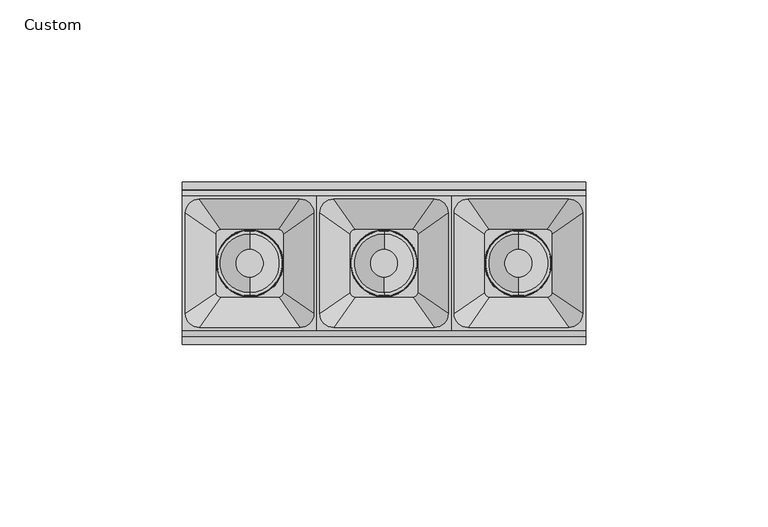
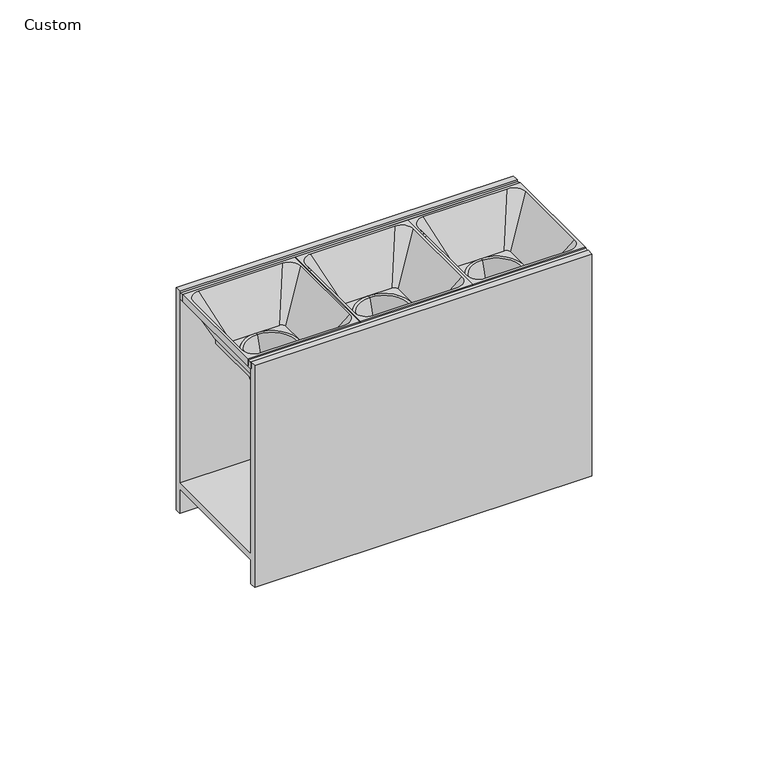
"""IFC4 building model written with IfcOpenShell, lengths in millimetres: light fixture geometry, Lighting-Pendant-Axis-Sculpt-Linear-MikroLite : Custom."""

from ifc_helpers import new_model, si_unit, point, frame, origin, place, context, project, spatial, polyline, circle_curve, ellipse_curve, trimmed, outline, extrude, source, transform, mapped, element, save
from ifc_brep_helpers import plane_surface, revolved_surface, spline_surface, advanced_brep


def custom_f251745e(model_context):
    return source(origin(), model_context, "Body", "SolidModel", [
        advanced_brep(
        [(-11.5702329, 11.5702329, 672.4768563), (-11.5702329, 11.5702329, 671.3885205), (-11.5702329, -11.5702329, 671.3885205), (-11.5702329, -11.5702329, 672.4768563), (-17.2355213, -17.2355213, 684.05375), (-17.2355213, 17.2355213, 684.05375), (-18.415, 18.415, 686.59375), (-18.415, 18.415, 684.05375), (-18.415, -18.415, 684.05375), (-18.415, -18.415, 686.59375), (11.5702329, -11.5702329, 671.3885205), (11.5702329, -11.5702329, 672.4768563), (17.2355213, -17.2355213, 684.05375), (18.415, -18.415, 684.05375), (18.415, -18.415, 686.59375), (11.5702329, 11.5702329, 671.3885205), (11.5702329, 11.5702329, 672.4768563), (17.2355213, 17.2355213, 684.05375), (18.415, 18.415, 684.05375), (18.415, 18.415, 686.59375), (-17.5895, -13.7795, 686.59375), (-17.5895, 13.7795, 686.59375), (-13.7795, 17.5895, 686.59375), (13.7795, 17.5895, 686.59375), (17.5895, 13.7795, 686.59375), (17.5895, -13.7795, 686.59375), (13.7795, -17.5895, 686.59375), (-13.7795, -17.5895, 686.59375), (0.0, 9.1446644, 671.3885205), (0.0, -9.1446644, 671.3885205), (-9.2138442, -7.9438442, 672.17925), (-7.9438442, -9.2138442, 672.17925), (0.0, -9.2138442, 672.17925), (-9.2138442, 0.0, 672.17925), (7.9438442, -9.2138442, 672.17925), (9.2138442, -7.9438442, 672.17925), (9.2138442, 0.0, 672.17925), (9.2138442, 7.9438442, 672.17925), (7.9438442, 9.2138442, 672.17925), (0.0, 9.2138442, 672.17925), (-7.9438442, 9.2138442, 672.17925), (-9.2138442, 7.9438442, 672.17925)],
        [
            (0, 1),
            (1, 2),
            (2, 3),
            (3, 0),
            (3, 4),
            (4, 5),
            (5, 0),
            (6, 7),
            (7, 8),
            (8, 9),
            (9, 6),
            (2, 10),
            (10, 11),
            (11, 3),
            (11, 12),
            (12, 4),
            (8, 13),
            (13, 14),
            (14, 9),
            (10, 15),
            (15, 16),
            (16, 11),
            (16, 17),
            (17, 12),
            (13, 18),
            (18, 19),
            (19, 14),
            (0, 16),
            (15, 1),
            (5, 17),
            (7, 18),
            (6, 19),
            (20, 21),
            (21, 22, circle_curve(frame((-13.7795, 13.7795, 686.59375), z_axis=(0.0, 0.0, -1.0), x_axis=(1.0, 0.0, 0.0)), 3.81)),
            (22, 23),
            (23, 24, circle_curve(frame((13.7795, 13.7795, 686.59375), z_axis=(0.0, 0.0, -1.0), x_axis=(1.0, 0.0, 0.0)), 3.81)),
            (24, 25),
            (25, 26, circle_curve(frame((13.7795, -13.7795, 686.59375), z_axis=(0.0, 0.0, -1.0), x_axis=(1.0, 0.0, 0.0)), 3.81)),
            (26, 27),
            (27, 20, circle_curve(frame((-13.7795, -13.7795, 686.59375), z_axis=(0.0, 0.0, -1.0), x_axis=(1.0, 0.0, 0.0)), 3.81)),
            (28, 29, circle_curve(frame((0.0, 0.0, 671.3885205), z_axis=(0.0, 0.0, 1.0), x_axis=(0.0, 1.0, 0.0)), 9.1446644)),
            (29, 28, circle_curve(frame((0.0, 0.0, 671.3885205), z_axis=(0.0, 0.0, 1.0), x_axis=(0.0, 1.0, 0.0)), 9.1446644)),
            (30, 31, circle_curve(frame((-7.9438442, -7.9438442, 672.17925), z_axis=(0.0, 0.0, 1.0), x_axis=(1.0, 0.0, 0.0)), 1.27)),
            (31, 32),
            (32, 33, circle_curve(frame((0.0, 0.0, 672.17925), z_axis=(0.0, 0.0, -1.0), x_axis=(0.0, 1.0, 0.0)), 9.2138442)),
            (33, 30),
            (34, 35, circle_curve(frame((7.9438442, -7.9438442, 672.17925), z_axis=(0.0, 0.0, 1.0), x_axis=(1.0, 0.0, 0.0)), 1.27)),
            (35, 36),
            (36, 32, circle_curve(frame((0.0, 0.0, 672.17925), z_axis=(0.0, 0.0, -1.0), x_axis=(0.0, 1.0, 0.0)), 9.2138442)),
            (32, 34),
            (37, 38, circle_curve(frame((7.9438442, 7.9438442, 672.17925), z_axis=(0.0, 0.0, 1.0), x_axis=(1.0, 0.0, 0.0)), 1.27)),
            (38, 39),
            (39, 36, circle_curve(frame((0.0, 0.0, 672.17925), z_axis=(0.0, 0.0, -1.0), x_axis=(0.0, 1.0, 0.0)), 9.2138442)),
            (36, 37),
            (40, 41, circle_curve(frame((-7.9438442, 7.9438442, 672.17925), z_axis=(0.0, 0.0, 1.0), x_axis=(1.0, 0.0, 0.0)), 1.27)),
            (41, 33),
            (33, 39, circle_curve(frame((0.0, 0.0, 672.17925), z_axis=(0.0, 0.0, -1.0), x_axis=(0.0, 1.0, 0.0)), 9.2138442)),
            (39, 40),
            (20, 30),
            (41, 21),
            (27, 31),
            (26, 34),
            (25, 35),
            (24, 37),
            (23, 38),
            (22, 40),
            (32, 29),
            (28, 39),
        ],
        [
            plane_surface(frame((-11.5702329, 11.5702329, 671.3885205), z_axis=(-1.0, 0.0, 0.0), x_axis=(0.0, -1.0, 0.0))),
            plane_surface(frame((-11.5702329, 11.5702329, 672.4768563), z_axis=(-0.8982167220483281, 0.0, -0.43955286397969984), x_axis=(0.0, -1.0, 0.0))),
            plane_surface(frame((-18.415, 18.415, 684.05375), z_axis=(-1.0, 0.0, 0.0), x_axis=(0.0, -1.0, 0.0))),
            plane_surface(frame((-11.5702329, -11.5702329, 671.3885205), z_axis=(0.0, -1.0, 0.0), x_axis=(1.0, 0.0, 0.0))),
            plane_surface(frame((-11.5702329, -11.5702329, 672.4768563), z_axis=(0.0, -0.8982167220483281, -0.43955286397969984), x_axis=(1.0, 0.0, 0.0))),
            plane_surface(frame((-18.415, -18.415, 684.05375), z_axis=(0.0, -1.0, 0.0), x_axis=(1.0, 0.0, 0.0))),
            plane_surface(frame((11.5702329, -11.5702329, 671.3885205), z_axis=(1.0, 0.0, 0.0), x_axis=(0.0, 1.0, 0.0))),
            plane_surface(frame((11.5702329, -11.5702329, 672.4768563), z_axis=(0.8982167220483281, 0.0, -0.43955286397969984), x_axis=(0.0, 1.0, 0.0))),
            plane_surface(frame((18.415, -18.415, 684.05375), z_axis=(1.0, 0.0, 0.0), x_axis=(0.0, 1.0, 0.0))),
            plane_surface(frame((11.5702329, 11.5702329, 671.3885205), z_axis=(0.0, 1.0, 0.0), x_axis=(-1.0, 0.0, 0.0))),
            plane_surface(frame((11.5702329, 11.5702329, 672.4768563), z_axis=(0.0, 0.8982167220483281, -0.43955286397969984), x_axis=(-1.0, 0.0, 0.0))),
            plane_surface(frame((17.2355213, 17.2355213, 684.05375), z_axis=(0.0, 0.0, -1.0), x_axis=(-1.0, 0.0, 0.0))),
            plane_surface(frame((18.415, 18.415, 684.05375), z_axis=(0.0, 1.0, 0.0), x_axis=(-1.0, 0.0, 0.0))),
            plane_surface(frame((18.415, 18.415, 686.59375), z_axis=(0.0, 0.0, 1.0), x_axis=(-1.0, 0.0, 0.0))),
            plane_surface(frame((0.0, 0.0, 671.3885205), z_axis=(0.0, 0.0, -1.0), x_axis=(-1.0, 0.0, 0.0))),
            plane_surface(frame((0.0, 0.0, 672.17925), z_axis=(0.0, 0.0, 1.0), x_axis=(0.0, -1.0, 0.0))),
            plane_surface(frame((-17.5895, 0.0, 686.59375), z_axis=(0.8646340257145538, 0.0, 0.5024022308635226), x_axis=(0.0, 1.0, 0.0))),
            spline_surface(1, 2, [[(-13.7795, -17.5895, 686.59375), (-17.5895, -17.5895, 686.59375), (-17.5895, -13.7795, 686.59375)], [(-7.9438442, -9.2138442, 672.17925), (-9.2138442, -9.2138442, 672.17925), (-9.2138442, -7.9438442, 672.17925)]], [2, 2], [3, 3], [0.0, 1.0], [0.0, 1.0], weights=[[1.0, 0.7071067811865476, 1.0], [1.0, 0.7071067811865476, 1.0]]),
            plane_surface(frame((0.0, -17.5895, 686.59375), z_axis=(0.0, 0.8646340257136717, 0.5024022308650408), x_axis=(-1.0, 0.0, 0.0))),
            spline_surface(1, 2, [[(17.5895, -13.7795, 686.59375), (17.5895, -17.5895, 686.59375), (13.7795, -17.5895, 686.59375)], [(9.2138442, -7.9438442, 672.17925), (9.2138442, -9.2138442, 672.17925), (7.9438442, -9.2138442, 672.17925)]], [2, 2], [3, 3], [0.0, 1.0], [0.0, 1.0], weights=[[1.0, 0.7071067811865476, 1.0], [1.0, 0.7071067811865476, 1.0]]),
            plane_surface(frame((17.5895, 0.0, 686.59375), z_axis=(-0.8646340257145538, 0.0, 0.5024022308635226), x_axis=(0.0, -1.0, 0.0))),
            spline_surface(1, 2, [[(13.7795, 17.5895, 686.59375), (17.5895, 17.5895, 686.59375), (17.5895, 13.7795, 686.59375)], [(7.9438442, 9.2138442, 672.17925), (9.2138442, 9.2138442, 672.17925), (9.2138442, 7.9438442, 672.17925)]], [2, 2], [3, 3], [0.0, 1.0], [0.0, 1.0], weights=[[1.0, 0.7071067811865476, 1.0], [1.0, 0.7071067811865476, 1.0]]),
            plane_surface(frame((0.0, 17.5895, 686.59375), z_axis=(0.0, -0.8646340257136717, 0.5024022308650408), x_axis=(1.0, 0.0, 0.0))),
            spline_surface(1, 2, [[(-17.5895, 13.7795, 686.59375), (-17.5895, 17.5895, 686.59375), (-13.7795, 17.5895, 686.59375)], [(-9.2138442, 7.9438442, 672.17925), (-9.2138442, 9.2138442, 672.17925), (-7.9438442, 9.2138442, 672.17925)]], [2, 2], [3, 3], [0.0, 1.0], [0.0, 1.0], weights=[[1.0, 0.7071067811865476, 1.0], [1.0, 0.7071067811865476, 1.0]]),
            revolved_surface(polyline([(0.0, 9.2138442, 672.17925), (0.0, 9.1446644, 671.3885205)]), (0.0, 0.0, 3030.4005443), (0.0, 0.0, 1.0)),
        ],
        [
            (0, [[1, 2, 3, 4]]),
            (1, [[-4, 5, 6, 7]]),
            (2, [[8, 9, 10, 11]]),
            (3, [[-3, 12, 13, 14]]),
            (4, [[-5, -14, 15, 16]]),
            (5, [[-10, 17, 18, 19]]),
            (6, [[-13, 20, 21, 22]]),
            (7, [[-15, -22, 23, 24]]),
            (8, [[-18, 25, 26, 27]]),
            (9, [[-1, 28, -21, 29]]),
            (10, [[-7, 30, -23, -28]]),
            (11, [[-9, 31, -25, -17], [-6, -16, -24, -30]]),
            (12, [[-8, 32, -26, -31]]),
            (13, [[-11, -19, -27, -32], [33, 34, 35, 36, 37, 38, 39, 40]]),
            (14, [[-2, -29, -20, -12], [41, 42]]),
            (15, [[43, 44, 45, 46]]),
            (15, [[47, 48, 49, 50]]),
            (15, [[51, 52, 53, 54]]),
            (15, [[55, 56, 57, 58]]),
            (16, [[59, -46, -56, 60, -33]]),
            (17, [[-43, -59, -40, 61]]),
            (18, [[-61, -39, 62, -50, -44]]),
            (19, [[-47, -62, -38, 63]]),
            (20, [[-63, -37, 64, -54, -48]]),
            (21, [[-51, -64, -36, 65]]),
            (22, [[-65, -35, 66, -58, -52]]),
            (23, [[-55, -66, -34, -60]]),
            (24, [[67, -41, 68, -57, -45]]),
            (24, [[-67, -49, -53, -68, -42]]),
        ],
    ),
        advanced_brep(
        [(0.0, -3.85, 658.77125), (0.0, 3.85, 658.77125), (0.0, 8.05, 672.47125), (0.0, -8.05, 672.47125), (0.0, -5.35, 658.77125), (0.0, 5.35, 658.77125), (0.0, -5.3865334, 660.012052), (0.0, 5.3865334, 660.012052), (0.0, -8.4259138, 669.87125), (0.0, 8.4259138, 669.87125), (0.0, -9.7360224, 669.87125), (0.0, 9.7360224, 669.87125), (0.0, -9.7986851, 671.3885205), (0.0, 9.7986851, 671.3885205), (0.0, -9.0049351, 671.3885205), (0.0, 9.0049351, 671.3885205), (0.0, -8.9860359, 672.47125), (0.0, 8.9860359, 672.47125)],
        [
            (0, 1, circle_curve(frame((0.0, 0.0, 658.77125), z_axis=(0.0, 0.0, -1.0), x_axis=(0.0, 1.0, 0.0)), 3.85)),
            (1, 2, circle_curve(frame((0.0, 190.6586551, 608.9952391), z_axis=(-1.0, 0.0, 0.0), x_axis=(0.0, -0.9662859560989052, 0.25747126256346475)), 193.3264722)),
            (2, 3, circle_curve(frame((0.0, 0.0, 672.47125), z_axis=(0.0, 0.0, 1.0), x_axis=(0.0, 1.0, 0.0)), 8.05)),
            (3, 0, circle_curve(frame((0.0, -190.6586551, 608.9952391), z_axis=(-1.0, 0.0, 0.0), x_axis=(0.0, 0.9662859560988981, 0.2574712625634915)), 193.3264722)),
            (1, 0, circle_curve(frame((0.0, 0.0, 658.77125), z_axis=(0.0, 0.0, -1.0), x_axis=(0.0, 1.0, 0.0)), 3.85)),
            (3, 2, circle_curve(frame((0.0, 0.0, 672.47125), z_axis=(0.0, 0.0, 1.0), x_axis=(0.0, 1.0, 0.0)), 8.05)),
            (4, 5, circle_curve(frame((0.0, 0.0, 658.77125), z_axis=(0.0, 0.0, -1.0), x_axis=(0.0, 1.0, 0.0)), 5.35)),
            (5, 1),
            (0, 4),
            (5, 4, circle_curve(frame((0.0, 0.0, 658.77125), z_axis=(0.0, 0.0, -1.0), x_axis=(0.0, 1.0, 0.0)), 5.35)),
            (6, 7, circle_curve(frame((0.0, 0.0, 660.012052), z_axis=(0.0, 0.0, -1.0), x_axis=(0.0, 1.0, 0.0)), 5.3865334)),
            (7, 5),
            (4, 6),
            (7, 6, circle_curve(frame((0.0, 0.0, 660.012052), z_axis=(0.0, 0.0, -1.0), x_axis=(0.0, 1.0, 0.0)), 5.3865334)),
            (8, 9, circle_curve(frame((0.0, 0.0, 669.87125), z_axis=(0.0, 0.0, -1.0), x_axis=(0.0, 1.0, 0.0)), 8.4259138)),
            (9, 7, circle_curve(frame((0.0, 178.3166089, 612.0994861), z_axis=(1.0, 0.0, 0.0), x_axis=(0.0, -0.9467575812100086, 0.32194732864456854)), 179.4447686)),
            (6, 8, circle_curve(frame((0.0, -178.3166089, 612.0994861), z_axis=(1.0, 0.0, 0.0), x_axis=(0.0, 0.9467575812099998, 0.32194732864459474)), 179.4447686)),
            (9, 8, circle_curve(frame((0.0, 0.0, 669.87125), z_axis=(0.0, 0.0, -1.0), x_axis=(0.0, 1.0, 0.0)), 8.4259138)),
            (10, 11, circle_curve(frame((0.0, 0.0, 669.87125), z_axis=(0.0, 0.0, -1.0), x_axis=(0.0, 1.0, 0.0)), 9.7360224)),
            (11, 9),
            (8, 10),
            (11, 10, circle_curve(frame((0.0, 0.0, 669.87125), z_axis=(0.0, 0.0, -1.0), x_axis=(0.0, 1.0, 0.0)), 9.7360224)),
            (12, 13, circle_curve(frame((0.0, 0.0, 671.3885205), z_axis=(0.0, 0.0, -1.0), x_axis=(0.0, 1.0, 0.0)), 9.7986851)),
            (13, 11),
            (10, 12),
            (13, 12, circle_curve(frame((0.0, 0.0, 671.3885205), z_axis=(0.0, 0.0, -1.0), x_axis=(0.0, 1.0, 0.0)), 9.7986851)),
            (14, 15, circle_curve(frame((0.0, 0.0, 671.3885205), z_axis=(0.0, 0.0, -1.0), x_axis=(0.0, 1.0, 0.0)), 9.0049351)),
            (15, 13),
            (12, 14),
            (15, 14, circle_curve(frame((0.0, 0.0, 671.3885205), z_axis=(0.0, 0.0, -1.0), x_axis=(0.0, 1.0, 0.0)), 9.0049351)),
            (16, 17, circle_curve(frame((0.0, 0.0, 672.47125), z_axis=(0.0, 0.0, -1.0), x_axis=(0.0, 1.0, 0.0)), 8.9860359)),
            (17, 15),
            (14, 16),
            (17, 16, circle_curve(frame((0.0, 0.0, 672.47125), z_axis=(0.0, 0.0, -1.0), x_axis=(0.0, 1.0, 0.0)), 8.9860359)),
            (2, 17),
            (16, 3),
        ],
        [
            revolved_surface(trimmed(ellipse_curve(frame((0.0, 190.6586551, 608.9952391), z_axis=(1.0, 0.0, 0.0), x_axis=(0.0, -0.9662859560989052, 0.25747126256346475)), 193.3264722, 193.3264722), [point((0.0, 8.05, 672.47125))], [point((0.0, 3.85, 658.77125))], True, "CARTESIAN"), (0.0, 0.0, 3030.4005443), (0.0, 0.0, 1.0)),
            plane_surface(frame((0.0, 0.0, 658.77125), z_axis=(0.0, 0.0, -1.0), x_axis=(0.0, 1.0, 0.0))),
            revolved_surface(polyline([(0.0, 5.35, 658.77125), (0.0, 5.3865334, 660.012052)]), (0.0, 0.0, 3030.4005443), (0.0, 0.0, 1.0)),
            revolved_surface(trimmed(ellipse_curve(frame((0.0, 178.3166089, 612.0994861), z_axis=(-1.0, 0.0, 0.0), x_axis=(0.0, -0.9467575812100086, 0.32194732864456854)), 179.4447686, 179.4447686), [point((0.0, 5.3865334, 660.012052))], [point((0.0, 8.4259138, 669.87125))], True, "CARTESIAN"), (0.0, 0.0, 3030.4005443), (0.0, 0.0, 1.0)),
            plane_surface(frame((0.0, 0.0, 669.87125), z_axis=(0.0, 0.0, -1.0), x_axis=(0.0, 1.0, 0.0))),
            revolved_surface(polyline([(0.0, 9.7360224, 669.87125), (0.0, 9.7986851, 671.3885205)]), (0.0, 0.0, 3030.4005443), (0.0, 0.0, 1.0)),
            plane_surface(frame((0.0, 0.0, 671.3885205), z_axis=(0.0, 0.0, 1.0), x_axis=(0.0, 1.0, 0.0))),
            revolved_surface(polyline([(0.0, 9.0049351, 671.3885205), (0.0, 8.9860359, 672.47125)]), (0.0, 0.0, 3030.4005443), (0.0, 0.0, 1.0)),
            plane_surface(frame((0.0, 0.0, 672.47125), z_axis=(0.0, 0.0, 1.0), x_axis=(0.0, 1.0, 0.0))),
        ],
        [
            (0, [[1, 2, 3, 4]]),
            (0, [[5, -4, 6, -2]]),
            (1, [[7, 8, -1, 9]]),
            (1, [[10, -9, -5, -8]]),
            (2, [[11, 12, -7, 13]]),
            (2, [[14, -13, -10, -12]]),
            (3, [[15, 16, -11, 17]]),
            (3, [[18, -17, -14, -16]]),
            (4, [[19, 20, -15, 21]]),
            (4, [[22, -21, -18, -20]]),
            (5, [[23, 24, -19, 25]]),
            (5, [[26, -25, -22, -24]]),
            (6, [[27, 28, -23, 29]]),
            (6, [[30, -29, -26, -28]]),
            (7, [[31, 32, -27, 33]]),
            (7, [[34, -33, -30, -32]]),
            (8, [[-3, 35, -31, 36]]),
            (8, [[-6, -36, -34, -35]]),
        ],
    ),
        advanced_brep(
        [(25.2597671, 11.5702329, 672.4768563), (25.2597671, 11.5702329, 671.3885205), (25.2597671, -11.5702329, 671.3885205), (25.2597671, -11.5702329, 672.4768563), (19.5944787, -17.2355213, 684.05375), (19.5944787, 17.2355213, 684.05375), (18.415, 18.415, 686.59375), (18.415, 18.415, 684.05375), (18.415, -18.415, 684.05375), (18.415, -18.415, 686.59375), (48.4002329, -11.5702329, 671.3885205), (48.4002329, -11.5702329, 672.4768563), (54.0655213, -17.2355213, 684.05375), (55.245, -18.415, 684.05375), (55.245, -18.415, 686.59375), (48.4002329, 11.5702329, 671.3885205), (48.4002329, 11.5702329, 672.4768563), (54.0655213, 17.2355213, 684.05375), (55.245, 18.415, 684.05375), (55.245, 18.415, 686.59375), (19.2405, -13.7795, 686.59375), (19.2405, 13.7795, 686.59375), (23.0505, 17.5895, 686.59375), (50.6095, 17.5895, 686.59375), (54.4195, 13.7795, 686.59375), (54.4195, -13.7795, 686.59375), (50.6095, -17.5895, 686.59375), (23.0505, -17.5895, 686.59375), (36.83, 9.1446644, 671.3885205), (36.83, -9.1446644, 671.3885205), (27.6161558, -7.9438442, 672.17925), (28.8861558, -9.2138442, 672.17925), (36.83, -9.2138442, 672.17925), (27.6161558, 0.0, 672.17925), (44.7738442, -9.2138442, 672.17925), (46.0438442, -7.9438442, 672.17925), (46.0438442, 0.0, 672.17925), (46.0438442, 7.9438442, 672.17925), (44.7738442, 9.2138442, 672.17925), (36.83, 9.2138442, 672.17925), (28.8861558, 9.2138442, 672.17925), (27.6161558, 7.9438442, 672.17925)],
        [
            (0, 1),
            (1, 2),
            (2, 3),
            (3, 0),
            (3, 4),
            (4, 5),
            (5, 0),
            (6, 7),
            (7, 8),
            (8, 9),
            (9, 6),
            (2, 10),
            (10, 11),
            (11, 3),
            (11, 12),
            (12, 4),
            (8, 13),
            (13, 14),
            (14, 9),
            (10, 15),
            (15, 16),
            (16, 11),
            (16, 17),
            (17, 12),
            (13, 18),
            (18, 19),
            (19, 14),
            (0, 16),
            (15, 1),
            (5, 17),
            (7, 18),
            (6, 19),
            (20, 21),
            (21, 22, circle_curve(frame((23.0505, 13.7795, 686.59375), z_axis=(0.0, 0.0, -1.0), x_axis=(1.0, 0.0, 0.0)), 3.81)),
            (22, 23),
            (23, 24, circle_curve(frame((50.6095, 13.7795, 686.59375), z_axis=(0.0, 0.0, -1.0), x_axis=(1.0, 0.0, 0.0)), 3.81)),
            (24, 25),
            (25, 26, circle_curve(frame((50.6095, -13.7795, 686.59375), z_axis=(0.0, 0.0, -1.0), x_axis=(1.0, 0.0, 0.0)), 3.81)),
            (26, 27),
            (27, 20, circle_curve(frame((23.0505, -13.7795, 686.59375), z_axis=(0.0, 0.0, -1.0), x_axis=(1.0, 0.0, 0.0)), 3.81)),
            (28, 29, circle_curve(frame((36.83, 0.0, 671.3885205), z_axis=(0.0, 0.0, 1.0), x_axis=(0.0, 1.0, 0.0)), 9.1446644)),
            (29, 28, circle_curve(frame((36.83, 0.0, 671.3885205), z_axis=(0.0, 0.0, 1.0), x_axis=(0.0, 1.0, 0.0)), 9.1446644)),
            (30, 31, circle_curve(frame((28.8861558, -7.9438442, 672.17925), z_axis=(0.0, 0.0, 1.0), x_axis=(1.0, 0.0, 0.0)), 1.27)),
            (31, 32),
            (32, 33, circle_curve(frame((36.83, 0.0, 672.17925), z_axis=(0.0, 0.0, -1.0), x_axis=(0.0, 1.0, 0.0)), 9.2138442)),
            (33, 30),
            (34, 35, circle_curve(frame((44.7738442, -7.9438442, 672.17925), z_axis=(0.0, 0.0, 1.0), x_axis=(1.0, 0.0, 0.0)), 1.27)),
            (35, 36),
            (36, 32, circle_curve(frame((36.83, 0.0, 672.17925), z_axis=(0.0, 0.0, -1.0), x_axis=(0.0, 1.0, 0.0)), 9.2138442)),
            (32, 34),
            (37, 38, circle_curve(frame((44.7738442, 7.9438442, 672.17925), z_axis=(0.0, 0.0, 1.0), x_axis=(1.0, 0.0, 0.0)), 1.27)),
            (38, 39),
            (39, 36, circle_curve(frame((36.83, 0.0, 672.17925), z_axis=(0.0, 0.0, -1.0), x_axis=(0.0, 1.0, 0.0)), 9.2138442)),
            (36, 37),
            (40, 41, circle_curve(frame((28.8861558, 7.9438442, 672.17925), z_axis=(0.0, 0.0, 1.0), x_axis=(1.0, 0.0, 0.0)), 1.27)),
            (41, 33),
            (33, 39, circle_curve(frame((36.83, 0.0, 672.17925), z_axis=(0.0, 0.0, -1.0), x_axis=(0.0, 1.0, 0.0)), 9.2138442)),
            (39, 40),
            (20, 30),
            (41, 21),
            (27, 31),
            (26, 34),
            (25, 35),
            (24, 37),
            (23, 38),
            (22, 40),
            (32, 29),
            (28, 39),
        ],
        [
            plane_surface(frame((25.2597671, 11.5702329, 671.3885205), z_axis=(-1.0, 0.0, 0.0), x_axis=(0.0, -1.0, 0.0))),
            plane_surface(frame((25.2597671, 11.5702329, 672.4768563), z_axis=(-0.8982167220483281, 0.0, -0.43955286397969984), x_axis=(0.0, -1.0, 0.0))),
            plane_surface(frame((18.415, 18.415, 684.05375), z_axis=(-1.0, 0.0, 0.0), x_axis=(0.0, -1.0, 0.0))),
            plane_surface(frame((25.2597671, -11.5702329, 671.3885205), z_axis=(0.0, -1.0, 0.0), x_axis=(1.0, 0.0, 0.0))),
            plane_surface(frame((25.2597671, -11.5702329, 672.4768563), z_axis=(0.0, -0.8982167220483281, -0.43955286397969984), x_axis=(1.0, 0.0, 0.0))),
            plane_surface(frame((18.415, -18.415, 684.05375), z_axis=(0.0, -1.0, 0.0), x_axis=(1.0, 0.0, 0.0))),
            plane_surface(frame((48.4002329, -11.5702329, 671.3885205), z_axis=(1.0, 0.0, 0.0), x_axis=(0.0, 1.0, 0.0))),
            plane_surface(frame((48.4002329, -11.5702329, 672.4768563), z_axis=(0.8982167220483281, 0.0, -0.43955286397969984), x_axis=(0.0, 1.0, 0.0))),
            plane_surface(frame((55.245, -18.415, 684.05375), z_axis=(1.0, 0.0, 0.0), x_axis=(0.0, 1.0, 0.0))),
            plane_surface(frame((48.4002329, 11.5702329, 671.3885205), z_axis=(0.0, 1.0, 0.0), x_axis=(-1.0, 0.0, 0.0))),
            plane_surface(frame((48.4002329, 11.5702329, 672.4768563), z_axis=(0.0, 0.8982167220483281, -0.43955286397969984), x_axis=(-1.0, 0.0, 0.0))),
            plane_surface(frame((54.0655213, 17.2355213, 684.05375), z_axis=(0.0, 0.0, -1.0), x_axis=(-1.0, 0.0, 0.0))),
            plane_surface(frame((55.245, 18.415, 684.05375), z_axis=(0.0, 1.0, 0.0), x_axis=(-1.0, 0.0, 0.0))),
            plane_surface(frame((55.245, 18.415, 686.59375), z_axis=(0.0, 0.0, 1.0), x_axis=(-1.0, 0.0, 0.0))),
            plane_surface(frame((36.83, 0.0, 671.3885205), z_axis=(0.0, 0.0, -1.0), x_axis=(-1.0, 0.0, 0.0))),
            plane_surface(frame((36.83, 0.0, 672.17925), z_axis=(0.0, 0.0, 1.0), x_axis=(0.0, -1.0, 0.0))),
            plane_surface(frame((19.2405, 0.0, 686.59375), z_axis=(0.8646340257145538, 0.0, 0.5024022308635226), x_axis=(0.0, 1.0, 0.0))),
            spline_surface(1, 2, [[(23.0505, -17.5895, 686.59375), (19.240499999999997, -17.5895, 686.59375), (19.2405, -13.7795, 686.59375)], [(28.8861558, -9.2138442, 672.17925), (27.6161558, -9.2138442, 672.17925), (27.6161558, -7.9438442, 672.17925)]], [2, 2], [3, 3], [0.0, 1.0], [0.0, 1.0], weights=[[1.0, 0.7071067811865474, 1.0], [1.0, 0.7071067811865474, 1.0]]),
            plane_surface(frame((36.83, -17.5895, 686.59375), z_axis=(0.0, 0.8646340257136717, 0.5024022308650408), x_axis=(-1.0, 0.0, 0.0))),
            spline_surface(1, 2, [[(54.4195, -13.7795, 686.59375), (54.4195, -17.5895, 686.59375), (50.6095, -17.5895, 686.59375)], [(46.0438442, -7.9438442, 672.17925), (46.0438442, -9.213844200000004, 672.17925), (44.7738442, -9.2138442, 672.17925)]], [2, 2], [3, 3], [0.0, 1.0], [0.0, 1.0], weights=[[1.0, 0.7071067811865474, 1.0], [1.0, 0.7071067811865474, 1.0]]),
            plane_surface(frame((54.4195, 0.0, 686.59375), z_axis=(-0.8646340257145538, 0.0, 0.5024022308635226), x_axis=(0.0, -1.0, 0.0))),
            spline_surface(1, 2, [[(50.6095, 17.5895, 686.59375), (54.4195, 17.5895, 686.59375), (54.4195, 13.7795, 686.59375)], [(44.7738442, 9.2138442, 672.17925), (46.0438442, 9.2138442, 672.17925), (46.0438442, 7.9438442, 672.17925)]], [2, 2], [3, 3], [0.0, 1.0], [0.0, 1.0], weights=[[1.0, 0.7071067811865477, 1.0], [1.0, 0.7071067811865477, 1.0]]),
            plane_surface(frame((36.83, 17.5895, 686.59375), z_axis=(0.0, -0.8646340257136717, 0.5024022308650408), x_axis=(1.0, 0.0, 0.0))),
            spline_surface(1, 2, [[(19.2405, 13.7795, 686.59375), (19.240500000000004, 17.5895, 686.59375), (23.0505, 17.5895, 686.59375)], [(27.6161558, 7.9438442, 672.17925), (27.6161558, 9.2138442, 672.17925), (28.8861558, 9.2138442, 672.17925)]], [2, 2], [3, 3], [0.0, 1.0], [0.0, 1.0], weights=[[1.0, 0.7071067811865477, 1.0], [1.0, 0.7071067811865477, 1.0]]),
            revolved_surface(polyline([(36.83, 9.2138442, 672.17925), (36.83, 9.1446644, 671.3885205)]), (36.83, 0.0, 3030.4005443), (0.0, 0.0, 1.0)),
        ],
        [
            (0, [[1, 2, 3, 4]]),
            (1, [[-4, 5, 6, 7]]),
            (2, [[8, 9, 10, 11]]),
            (3, [[-3, 12, 13, 14]]),
            (4, [[-5, -14, 15, 16]]),
            (5, [[-10, 17, 18, 19]]),
            (6, [[-13, 20, 21, 22]]),
            (7, [[-15, -22, 23, 24]]),
            (8, [[-18, 25, 26, 27]]),
            (9, [[-1, 28, -21, 29]]),
            (10, [[-7, 30, -23, -28]]),
            (11, [[-9, 31, -25, -17], [-6, -16, -24, -30]]),
            (12, [[-8, 32, -26, -31]]),
            (13, [[-11, -19, -27, -32], [33, 34, 35, 36, 37, 38, 39, 40]]),
            (14, [[-2, -29, -20, -12], [41, 42]]),
            (15, [[43, 44, 45, 46]]),
            (15, [[47, 48, 49, 50]]),
            (15, [[51, 52, 53, 54]]),
            (15, [[55, 56, 57, 58]]),
            (16, [[59, -46, -56, 60, -33]]),
            (17, [[-43, -59, -40, 61]]),
            (18, [[-61, -39, 62, -50, -44]]),
            (19, [[-47, -62, -38, 63]]),
            (20, [[-63, -37, 64, -54, -48]]),
            (21, [[-51, -64, -36, 65]]),
            (22, [[-65, -35, 66, -58, -52]]),
            (23, [[-55, -66, -34, -60]]),
            (24, [[67, -41, 68, -57, -45]]),
            (24, [[-67, -49, -53, -68, -42]]),
        ],
    ),
        advanced_brep(
        [(36.83, -3.85, 658.77125), (36.83, 3.85, 658.77125), (36.83, 8.05, 672.47125), (36.83, -8.05, 672.47125), (36.83, -5.35, 658.77125), (36.83, 5.35, 658.77125), (36.83, -5.3865334, 660.012052), (36.83, 5.3865334, 660.012052), (36.83, -8.4259138, 669.87125), (36.83, 8.4259138, 669.87125), (36.83, -9.7360224, 669.87125), (36.83, 9.7360224, 669.87125), (36.83, -9.7986851, 671.3885205), (36.83, 9.7986851, 671.3885205), (36.83, -9.0049351, 671.3885205), (36.83, 9.0049351, 671.3885205), (36.83, -8.9860359, 672.47125), (36.83, 8.9860359, 672.47125)],
        [
            (0, 1, circle_curve(frame((36.83, 0.0, 658.77125), z_axis=(0.0, 0.0, -1.0), x_axis=(0.0, 1.0, 0.0)), 3.85)),
            (1, 2, circle_curve(frame((36.83, 190.6586551, 608.9952391), z_axis=(-1.0, 0.0, 0.0), x_axis=(0.0, -0.9662859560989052, 0.25747126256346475)), 193.3264722)),
            (2, 3, circle_curve(frame((36.83, 0.0, 672.47125), z_axis=(0.0, 0.0, 1.0), x_axis=(0.0, 1.0, 0.0)), 8.05)),
            (3, 0, circle_curve(frame((36.83, -190.6586551, 608.9952391), z_axis=(-1.0, 0.0, 0.0), x_axis=(0.0, 0.9662859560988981, 0.2574712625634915)), 193.3264722)),
            (1, 0, circle_curve(frame((36.83, 0.0, 658.77125), z_axis=(0.0, 0.0, -1.0), x_axis=(0.0, 1.0, 0.0)), 3.85)),
            (3, 2, circle_curve(frame((36.83, 0.0, 672.47125), z_axis=(0.0, 0.0, 1.0), x_axis=(0.0, 1.0, 0.0)), 8.05)),
            (4, 5, circle_curve(frame((36.83, 0.0, 658.77125), z_axis=(0.0, 0.0, -1.0), x_axis=(0.0, 1.0, 0.0)), 5.35)),
            (5, 1),
            (0, 4),
            (5, 4, circle_curve(frame((36.83, 0.0, 658.77125), z_axis=(0.0, 0.0, -1.0), x_axis=(0.0, 1.0, 0.0)), 5.35)),
            (6, 7, circle_curve(frame((36.83, 0.0, 660.012052), z_axis=(0.0, 0.0, -1.0), x_axis=(0.0, 1.0, 0.0)), 5.3865334)),
            (7, 5),
            (4, 6),
            (7, 6, circle_curve(frame((36.83, 0.0, 660.012052), z_axis=(0.0, 0.0, -1.0), x_axis=(0.0, 1.0, 0.0)), 5.3865334)),
            (8, 9, circle_curve(frame((36.83, 0.0, 669.87125), z_axis=(0.0, 0.0, -1.0), x_axis=(0.0, 1.0, 0.0)), 8.4259138)),
            (9, 7, circle_curve(frame((36.83, 178.3166089, 612.0994861), z_axis=(1.0, 0.0, 0.0), x_axis=(0.0, -0.9467575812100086, 0.32194732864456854)), 179.4447686)),
            (6, 8, circle_curve(frame((36.83, -178.3166089, 612.0994861), z_axis=(1.0, 0.0, 0.0), x_axis=(0.0, 0.9467575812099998, 0.32194732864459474)), 179.4447686)),
            (9, 8, circle_curve(frame((36.83, 0.0, 669.87125), z_axis=(0.0, 0.0, -1.0), x_axis=(0.0, 1.0, 0.0)), 8.4259138)),
            (10, 11, circle_curve(frame((36.83, 0.0, 669.87125), z_axis=(0.0, 0.0, -1.0), x_axis=(0.0, 1.0, 0.0)), 9.7360224)),
            (11, 9),
            (8, 10),
            (11, 10, circle_curve(frame((36.83, 0.0, 669.87125), z_axis=(0.0, 0.0, -1.0), x_axis=(0.0, 1.0, 0.0)), 9.7360224)),
            (12, 13, circle_curve(frame((36.83, 0.0, 671.3885205), z_axis=(0.0, 0.0, -1.0), x_axis=(0.0, 1.0, 0.0)), 9.7986851)),
            (13, 11),
            (10, 12),
            (13, 12, circle_curve(frame((36.83, 0.0, 671.3885205), z_axis=(0.0, 0.0, -1.0), x_axis=(0.0, 1.0, 0.0)), 9.7986851)),
            (14, 15, circle_curve(frame((36.83, 0.0, 671.3885205), z_axis=(0.0, 0.0, -1.0), x_axis=(0.0, 1.0, 0.0)), 9.0049351)),
            (15, 13),
            (12, 14),
            (15, 14, circle_curve(frame((36.83, 0.0, 671.3885205), z_axis=(0.0, 0.0, -1.0), x_axis=(0.0, 1.0, 0.0)), 9.0049351)),
            (16, 17, circle_curve(frame((36.83, 0.0, 672.47125), z_axis=(0.0, 0.0, -1.0), x_axis=(0.0, 1.0, 0.0)), 8.9860359)),
            (17, 15),
            (14, 16),
            (17, 16, circle_curve(frame((36.83, 0.0, 672.47125), z_axis=(0.0, 0.0, -1.0), x_axis=(0.0, 1.0, 0.0)), 8.9860359)),
            (2, 17),
            (16, 3),
        ],
        [
            revolved_surface(trimmed(ellipse_curve(frame((36.83, 190.6586551, 608.9952391), z_axis=(1.0, 0.0, 0.0), x_axis=(0.0, -0.9662859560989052, 0.25747126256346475)), 193.3264722, 193.3264722), [point((36.83, 8.05, 672.47125))], [point((36.83, 3.85, 658.77125))], True, "CARTESIAN"), (36.83, 0.0, 3030.4005443), (0.0, 0.0, 1.0)),
            plane_surface(frame((36.83, 0.0, 658.77125), z_axis=(0.0, 0.0, -1.0), x_axis=(0.0, 1.0, 0.0))),
            revolved_surface(polyline([(36.83, 5.35, 658.77125), (36.83, 5.3865334, 660.012052)]), (36.83, 0.0, 3030.4005443), (0.0, 0.0, 1.0)),
            revolved_surface(trimmed(ellipse_curve(frame((36.83, 178.3166089, 612.0994861), z_axis=(-1.0, 0.0, 0.0), x_axis=(0.0, -0.9467575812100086, 0.32194732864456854)), 179.4447686, 179.4447686), [point((36.83, 5.3865334, 660.012052))], [point((36.83, 8.4259138, 669.87125))], True, "CARTESIAN"), (36.83, 0.0, 3030.4005443), (0.0, 0.0, 1.0)),
            plane_surface(frame((36.83, 0.0, 669.87125), z_axis=(0.0, 0.0, -1.0), x_axis=(0.0, 1.0, 0.0))),
            revolved_surface(polyline([(36.83, 9.7360224, 669.87125), (36.83, 9.7986851, 671.3885205)]), (36.83, 0.0, 3030.4005443), (0.0, 0.0, 1.0)),
            plane_surface(frame((36.83, 0.0, 671.3885205), z_axis=(0.0, 0.0, 1.0), x_axis=(0.0, 1.0, 0.0))),
            revolved_surface(polyline([(36.83, 9.0049351, 671.3885205), (36.83, 8.9860359, 672.47125)]), (36.83, 0.0, 3030.4005443), (0.0, 0.0, 1.0)),
            plane_surface(frame((36.83, 0.0, 672.47125), z_axis=(0.0, 0.0, 1.0), x_axis=(0.0, 1.0, 0.0))),
        ],
        [
            (0, [[1, 2, 3, 4]]),
            (0, [[5, -4, 6, -2]]),
            (1, [[7, 8, -1, 9]]),
            (1, [[10, -9, -5, -8]]),
            (2, [[11, 12, -7, 13]]),
            (2, [[14, -13, -10, -12]]),
            (3, [[15, 16, -11, 17]]),
            (3, [[18, -17, -14, -16]]),
            (4, [[19, 20, -15, 21]]),
            (4, [[22, -21, -18, -20]]),
            (5, [[23, 24, -19, 25]]),
            (5, [[26, -25, -22, -24]]),
            (6, [[27, 28, -23, 29]]),
            (6, [[30, -29, -26, -28]]),
            (7, [[31, 32, -27, 33]]),
            (7, [[34, -33, -30, -32]]),
            (8, [[-3, 35, -31, 36]]),
            (8, [[-6, -36, -34, -35]]),
        ],
    ),
        advanced_brep(
        [(-48.4002329, 11.5702329, 672.4768563), (-48.4002329, 11.5702329, 671.3885205), (-48.4002329, -11.5702329, 671.3885205), (-48.4002329, -11.5702329, 672.4768563), (-54.0655213, -17.2355213, 684.05375), (-54.0655213, 17.2355213, 684.05375), (-55.245, 18.415, 686.59375), (-55.245, 18.415, 684.05375), (-55.245, -18.415, 684.05375), (-55.245, -18.415, 686.59375), (-25.2597671, -11.5702329, 671.3885205), (-25.2597671, -11.5702329, 672.4768563), (-19.5944787, -17.2355213, 684.05375), (-18.415, -18.415, 684.05375), (-18.415, -18.415, 686.59375), (-25.2597671, 11.5702329, 671.3885205), (-25.2597671, 11.5702329, 672.4768563), (-19.5944787, 17.2355213, 684.05375), (-18.415, 18.415, 684.05375), (-18.415, 18.415, 686.59375), (-54.4195, -13.7795, 686.59375), (-54.4195, 13.7795, 686.59375), (-50.6095, 17.5895, 686.59375), (-23.0505, 17.5895, 686.59375), (-19.2405, 13.7795, 686.59375), (-19.2405, -13.7795, 686.59375), (-23.0505, -17.5895, 686.59375), (-50.6095, -17.5895, 686.59375), (-36.83, 9.1446644, 671.3885205), (-36.83, -9.1446644, 671.3885205), (-46.0438442, -7.9438442, 672.17925), (-44.7738442, -9.2138442, 672.17925), (-36.83, -9.2138442, 672.17925), (-46.0438442, 0.0, 672.17925), (-28.8861558, -9.2138442, 672.17925), (-27.6161558, -7.9438442, 672.17925), (-27.6161558, 0.0, 672.17925), (-27.6161558, 7.9438442, 672.17925), (-28.8861558, 9.2138442, 672.17925), (-36.83, 9.2138442, 672.17925), (-44.7738442, 9.2138442, 672.17925), (-46.0438442, 7.9438442, 672.17925)],
        [
            (0, 1),
            (1, 2),
            (2, 3),
            (3, 0),
            (3, 4),
            (4, 5),
            (5, 0),
            (6, 7),
            (7, 8),
            (8, 9),
            (9, 6),
            (2, 10),
            (10, 11),
            (11, 3),
            (11, 12),
            (12, 4),
            (8, 13),
            (13, 14),
            (14, 9),
            (10, 15),
            (15, 16),
            (16, 11),
            (16, 17),
            (17, 12),
            (13, 18),
            (18, 19),
            (19, 14),
            (0, 16),
            (15, 1),
            (5, 17),
            (7, 18),
            (6, 19),
            (20, 21),
            (21, 22, circle_curve(frame((-50.6095, 13.7795, 686.59375), z_axis=(0.0, 0.0, -1.0), x_axis=(1.0, 0.0, 0.0)), 3.81)),
            (22, 23),
            (23, 24, circle_curve(frame((-23.0505, 13.7795, 686.59375), z_axis=(0.0, 0.0, -1.0), x_axis=(1.0, 0.0, 0.0)), 3.81)),
            (24, 25),
            (25, 26, circle_curve(frame((-23.0505, -13.7795, 686.59375), z_axis=(0.0, 0.0, -1.0), x_axis=(1.0, 0.0, 0.0)), 3.81)),
            (26, 27),
            (27, 20, circle_curve(frame((-50.6095, -13.7795, 686.59375), z_axis=(0.0, 0.0, -1.0), x_axis=(1.0, 0.0, 0.0)), 3.81)),
            (28, 29, circle_curve(frame((-36.83, 0.0, 671.3885205), z_axis=(0.0, 0.0, 1.0), x_axis=(0.0, 1.0, 0.0)), 9.1446644)),
            (29, 28, circle_curve(frame((-36.83, 0.0, 671.3885205), z_axis=(0.0, 0.0, 1.0), x_axis=(0.0, 1.0, 0.0)), 9.1446644)),
            (30, 31, circle_curve(frame((-44.7738442, -7.9438442, 672.17925), z_axis=(0.0, 0.0, 1.0), x_axis=(1.0, 0.0, 0.0)), 1.27)),
            (31, 32),
            (32, 33, circle_curve(frame((-36.83, 0.0, 672.17925), z_axis=(0.0, 0.0, -1.0), x_axis=(0.0, 1.0, 0.0)), 9.2138442)),
            (33, 30),
            (34, 35, circle_curve(frame((-28.8861558, -7.9438442, 672.17925), z_axis=(0.0, 0.0, 1.0), x_axis=(1.0, 0.0, 0.0)), 1.27)),
            (35, 36),
            (36, 32, circle_curve(frame((-36.83, 0.0, 672.17925), z_axis=(0.0, 0.0, -1.0), x_axis=(0.0, 1.0, 0.0)), 9.2138442)),
            (32, 34),
            (37, 38, circle_curve(frame((-28.8861558, 7.9438442, 672.17925), z_axis=(0.0, 0.0, 1.0), x_axis=(1.0, 0.0, 0.0)), 1.27)),
            (38, 39),
            (39, 36, circle_curve(frame((-36.83, 0.0, 672.17925), z_axis=(0.0, 0.0, -1.0), x_axis=(0.0, 1.0, 0.0)), 9.2138442)),
            (36, 37),
            (40, 41, circle_curve(frame((-44.7738442, 7.9438442, 672.17925), z_axis=(0.0, 0.0, 1.0), x_axis=(1.0, 0.0, 0.0)), 1.27)),
            (41, 33),
            (33, 39, circle_curve(frame((-36.83, 0.0, 672.17925), z_axis=(0.0, 0.0, -1.0), x_axis=(0.0, 1.0, 0.0)), 9.2138442)),
            (39, 40),
            (20, 30),
            (41, 21),
            (27, 31),
            (26, 34),
            (25, 35),
            (24, 37),
            (23, 38),
            (22, 40),
            (32, 29),
            (28, 39),
        ],
        [
            plane_surface(frame((-48.4002329, 11.5702329, 671.3885205), z_axis=(-1.0, 0.0, 0.0), x_axis=(0.0, -1.0, 0.0))),
            plane_surface(frame((-48.4002329, 11.5702329, 672.4768563), z_axis=(-0.8982167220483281, 0.0, -0.43955286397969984), x_axis=(0.0, -1.0, 0.0))),
            plane_surface(frame((-55.245, 18.415, 684.05375), z_axis=(-1.0, 0.0, 0.0), x_axis=(0.0, -1.0, 0.0))),
            plane_surface(frame((-48.4002329, -11.5702329, 671.3885205), z_axis=(0.0, -1.0, 0.0), x_axis=(1.0, 0.0, 0.0))),
            plane_surface(frame((-48.4002329, -11.5702329, 672.4768563), z_axis=(0.0, -0.8982167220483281, -0.43955286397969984), x_axis=(1.0, 0.0, 0.0))),
            plane_surface(frame((-55.245, -18.415, 684.05375), z_axis=(0.0, -1.0, 0.0), x_axis=(1.0, 0.0, 0.0))),
            plane_surface(frame((-25.2597671, -11.5702329, 671.3885205), z_axis=(1.0, 0.0, 0.0), x_axis=(0.0, 1.0, 0.0))),
            plane_surface(frame((-25.2597671, -11.5702329, 672.4768563), z_axis=(0.8982167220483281, 0.0, -0.43955286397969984), x_axis=(0.0, 1.0, 0.0))),
            plane_surface(frame((-18.415, -18.415, 684.05375), z_axis=(1.0, 0.0, 0.0), x_axis=(0.0, 1.0, 0.0))),
            plane_surface(frame((-25.2597671, 11.5702329, 671.3885205), z_axis=(0.0, 1.0, 0.0), x_axis=(-1.0, 0.0, 0.0))),
            plane_surface(frame((-25.2597671, 11.5702329, 672.4768563), z_axis=(0.0, 0.8982167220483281, -0.43955286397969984), x_axis=(-1.0, 0.0, 0.0))),
            plane_surface(frame((-19.5944787, 17.2355213, 684.05375), z_axis=(0.0, 0.0, -1.0), x_axis=(-1.0, 0.0, 0.0))),
            plane_surface(frame((-18.415, 18.415, 684.05375), z_axis=(0.0, 1.0, 0.0), x_axis=(-1.0, 0.0, 0.0))),
            plane_surface(frame((-18.415, 18.415, 686.59375), z_axis=(0.0, 0.0, 1.0), x_axis=(-1.0, 0.0, 0.0))),
            plane_surface(frame((-36.83, 0.0, 671.3885205), z_axis=(0.0, 0.0, -1.0), x_axis=(-1.0, 0.0, 0.0))),
            plane_surface(frame((-36.83, 0.0, 672.17925), z_axis=(0.0, 0.0, 1.0), x_axis=(0.0, -1.0, 0.0))),
            plane_surface(frame((-54.4195, 0.0, 686.59375), z_axis=(0.8646340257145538, 0.0, 0.5024022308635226), x_axis=(0.0, 1.0, 0.0))),
            spline_surface(1, 2, [[(-50.6095, -17.5895, 686.59375), (-54.4195, -17.5895, 686.59375), (-54.4195, -13.7795, 686.59375)], [(-44.7738442, -9.2138442, 672.17925), (-46.0438442, -9.2138442, 672.17925), (-46.0438442, -7.9438442, 672.17925)]], [2, 2], [3, 3], [0.0, 1.0], [0.0, 1.0], weights=[[1.0, 0.7071067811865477, 1.0], [1.0, 0.7071067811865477, 1.0]]),
            plane_surface(frame((-36.83, -17.5895, 686.59375), z_axis=(0.0, 0.8646340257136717, 0.5024022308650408), x_axis=(-1.0, 0.0, 0.0))),
            spline_surface(1, 2, [[(-19.2405, -13.7795, 686.59375), (-19.240500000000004, -17.5895, 686.59375), (-23.0505, -17.5895, 686.59375)], [(-27.6161558, -7.9438442, 672.17925), (-27.6161558, -9.2138442, 672.17925), (-28.8861558, -9.2138442, 672.17925)]], [2, 2], [3, 3], [0.0, 1.0], [0.0, 1.0], weights=[[1.0, 0.7071067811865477, 1.0], [1.0, 0.7071067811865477, 1.0]]),
            plane_surface(frame((-19.2405, 0.0, 686.59375), z_axis=(-0.8646340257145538, 0.0, 0.5024022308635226), x_axis=(0.0, -1.0, 0.0))),
            spline_surface(1, 2, [[(-23.0505, 17.5895, 686.59375), (-19.240499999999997, 17.5895, 686.59375), (-19.2405, 13.7795, 686.59375)], [(-28.8861558, 9.2138442, 672.17925), (-27.6161558, 9.2138442, 672.17925), (-27.6161558, 7.9438442, 672.17925)]], [2, 2], [3, 3], [0.0, 1.0], [0.0, 1.0], weights=[[1.0, 0.7071067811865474, 1.0], [1.0, 0.7071067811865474, 1.0]]),
            plane_surface(frame((-36.83, 17.5895, 686.59375), z_axis=(0.0, -0.8646340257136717, 0.5024022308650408), x_axis=(1.0, 0.0, 0.0))),
            spline_surface(1, 2, [[(-54.4195, 13.7795, 686.59375), (-54.4195, 17.5895, 686.59375), (-50.6095, 17.5895, 686.59375)], [(-46.0438442, 7.9438442, 672.17925), (-46.0438442, 9.213844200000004, 672.17925), (-44.7738442, 9.2138442, 672.17925)]], [2, 2], [3, 3], [0.0, 1.0], [0.0, 1.0], weights=[[1.0, 0.7071067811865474, 1.0], [1.0, 0.7071067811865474, 1.0]]),
            revolved_surface(polyline([(-36.83, 9.2138442, 672.17925), (-36.83, 9.1446644, 671.3885205)]), (-36.83, 0.0, 3030.4005443), (0.0, 0.0, 1.0)),
        ],
        [
            (0, [[1, 2, 3, 4]]),
            (1, [[-4, 5, 6, 7]]),
            (2, [[8, 9, 10, 11]]),
            (3, [[-3, 12, 13, 14]]),
            (4, [[-5, -14, 15, 16]]),
            (5, [[-10, 17, 18, 19]]),
            (6, [[-13, 20, 21, 22]]),
            (7, [[-15, -22, 23, 24]]),
            (8, [[-18, 25, 26, 27]]),
            (9, [[-1, 28, -21, 29]]),
            (10, [[-7, 30, -23, -28]]),
            (11, [[-9, 31, -25, -17], [-6, -16, -24, -30]]),
            (12, [[-8, 32, -26, -31]]),
            (13, [[-11, -19, -27, -32], [33, 34, 35, 36, 37, 38, 39, 40]]),
            (14, [[-2, -29, -20, -12], [41, 42]]),
            (15, [[43, 44, 45, 46]]),
            (15, [[47, 48, 49, 50]]),
            (15, [[51, 52, 53, 54]]),
            (15, [[55, 56, 57, 58]]),
            (16, [[59, -46, -56, 60, -33]]),
            (17, [[-43, -59, -40, 61]]),
            (18, [[-61, -39, 62, -50, -44]]),
            (19, [[-47, -62, -38, 63]]),
            (20, [[-63, -37, 64, -54, -48]]),
            (21, [[-51, -64, -36, 65]]),
            (22, [[-65, -35, 66, -58, -52]]),
            (23, [[-55, -66, -34, -60]]),
            (24, [[67, -41, 68, -57, -45]]),
            (24, [[-67, -49, -53, -68, -42]]),
        ],
    ),
        advanced_brep(
        [(-36.83, -3.85, 658.77125), (-36.83, 3.85, 658.77125), (-36.83, 8.05, 672.47125), (-36.83, -8.05, 672.47125), (-36.83, -5.35, 658.77125), (-36.83, 5.35, 658.77125), (-36.83, -5.3865334, 660.012052), (-36.83, 5.3865334, 660.012052), (-36.83, -8.4259138, 669.87125), (-36.83, 8.4259138, 669.87125), (-36.83, -9.7360224, 669.87125), (-36.83, 9.7360224, 669.87125), (-36.83, -9.7986851, 671.3885205), (-36.83, 9.7986851, 671.3885205), (-36.83, -9.0049351, 671.3885205), (-36.83, 9.0049351, 671.3885205), (-36.83, -8.9860359, 672.47125), (-36.83, 8.9860359, 672.47125)],
        [
            (0, 1, circle_curve(frame((-36.83, 0.0, 658.77125), z_axis=(0.0, 0.0, -1.0), x_axis=(0.0, 1.0, 0.0)), 3.85)),
            (1, 2, circle_curve(frame((-36.83, 190.6586551, 608.9952391), z_axis=(-1.0, 0.0, 0.0), x_axis=(0.0, -0.9662859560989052, 0.25747126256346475)), 193.3264722)),
            (2, 3, circle_curve(frame((-36.83, 0.0, 672.47125), z_axis=(0.0, 0.0, 1.0), x_axis=(0.0, 1.0, 0.0)), 8.05)),
            (3, 0, circle_curve(frame((-36.83, -190.6586551, 608.9952391), z_axis=(-1.0, 0.0, 0.0), x_axis=(0.0, 0.9662859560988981, 0.2574712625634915)), 193.3264722)),
            (1, 0, circle_curve(frame((-36.83, 0.0, 658.77125), z_axis=(0.0, 0.0, -1.0), x_axis=(0.0, 1.0, 0.0)), 3.85)),
            (3, 2, circle_curve(frame((-36.83, 0.0, 672.47125), z_axis=(0.0, 0.0, 1.0), x_axis=(0.0, 1.0, 0.0)), 8.05)),
            (4, 5, circle_curve(frame((-36.83, 0.0, 658.77125), z_axis=(0.0, 0.0, -1.0), x_axis=(0.0, 1.0, 0.0)), 5.35)),
            (5, 1),
            (0, 4),
            (5, 4, circle_curve(frame((-36.83, 0.0, 658.77125), z_axis=(0.0, 0.0, -1.0), x_axis=(0.0, 1.0, 0.0)), 5.35)),
            (6, 7, circle_curve(frame((-36.83, 0.0, 660.012052), z_axis=(0.0, 0.0, -1.0), x_axis=(0.0, 1.0, 0.0)), 5.3865334)),
            (7, 5),
            (4, 6),
            (7, 6, circle_curve(frame((-36.83, 0.0, 660.012052), z_axis=(0.0, 0.0, -1.0), x_axis=(0.0, 1.0, 0.0)), 5.3865334)),
            (8, 9, circle_curve(frame((-36.83, 0.0, 669.87125), z_axis=(0.0, 0.0, -1.0), x_axis=(0.0, 1.0, 0.0)), 8.4259138)),
            (9, 7, circle_curve(frame((-36.83, 178.3166089, 612.0994861), z_axis=(1.0, 0.0, 0.0), x_axis=(0.0, -0.9467575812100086, 0.32194732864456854)), 179.4447686)),
            (6, 8, circle_curve(frame((-36.83, -178.3166089, 612.0994861), z_axis=(1.0, 0.0, 0.0), x_axis=(0.0, 0.9467575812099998, 0.32194732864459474)), 179.4447686)),
            (9, 8, circle_curve(frame((-36.83, 0.0, 669.87125), z_axis=(0.0, 0.0, -1.0), x_axis=(0.0, 1.0, 0.0)), 8.4259138)),
            (10, 11, circle_curve(frame((-36.83, 0.0, 669.87125), z_axis=(0.0, 0.0, -1.0), x_axis=(0.0, 1.0, 0.0)), 9.7360224)),
            (11, 9),
            (8, 10),
            (11, 10, circle_curve(frame((-36.83, 0.0, 669.87125), z_axis=(0.0, 0.0, -1.0), x_axis=(0.0, 1.0, 0.0)), 9.7360224)),
            (12, 13, circle_curve(frame((-36.83, 0.0, 671.3885205), z_axis=(0.0, 0.0, -1.0), x_axis=(0.0, 1.0, 0.0)), 9.7986851)),
            (13, 11),
            (10, 12),
            (13, 12, circle_curve(frame((-36.83, 0.0, 671.3885205), z_axis=(0.0, 0.0, -1.0), x_axis=(0.0, 1.0, 0.0)), 9.7986851)),
            (14, 15, circle_curve(frame((-36.83, 0.0, 671.3885205), z_axis=(0.0, 0.0, -1.0), x_axis=(0.0, 1.0, 0.0)), 9.0049351)),
            (15, 13),
            (12, 14),
            (15, 14, circle_curve(frame((-36.83, 0.0, 671.3885205), z_axis=(0.0, 0.0, -1.0), x_axis=(0.0, 1.0, 0.0)), 9.0049351)),
            (16, 17, circle_curve(frame((-36.83, 0.0, 672.47125), z_axis=(0.0, 0.0, -1.0), x_axis=(0.0, 1.0, 0.0)), 8.9860359)),
            (17, 15),
            (14, 16),
            (17, 16, circle_curve(frame((-36.83, 0.0, 672.47125), z_axis=(0.0, 0.0, -1.0), x_axis=(0.0, 1.0, 0.0)), 8.9860359)),
            (2, 17),
            (16, 3),
        ],
        [
            revolved_surface(trimmed(ellipse_curve(frame((-36.83, 190.6586551, 608.9952391), z_axis=(1.0, 0.0, 0.0), x_axis=(0.0, -0.9662859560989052, 0.25747126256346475)), 193.3264722, 193.3264722), [point((-36.83, 8.05, 672.47125))], [point((-36.83, 3.85, 658.77125))], True, "CARTESIAN"), (-36.83, 0.0, 3030.4005443), (0.0, 0.0, 1.0)),
            plane_surface(frame((-36.83, 0.0, 658.77125), z_axis=(0.0, 0.0, -1.0), x_axis=(0.0, 1.0, 0.0))),
            revolved_surface(polyline([(-36.83, 5.35, 658.77125), (-36.83, 5.3865334, 660.012052)]), (-36.83, 0.0, 3030.4005443), (0.0, 0.0, 1.0)),
            revolved_surface(trimmed(ellipse_curve(frame((-36.83, 178.3166089, 612.0994861), z_axis=(-1.0, 0.0, 0.0), x_axis=(0.0, -0.9467575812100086, 0.32194732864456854)), 179.4447686, 179.4447686), [point((-36.83, 5.3865334, 660.012052))], [point((-36.83, 8.4259138, 669.87125))], True, "CARTESIAN"), (-36.83, 0.0, 3030.4005443), (0.0, 0.0, 1.0)),
            plane_surface(frame((-36.83, 0.0, 669.87125), z_axis=(0.0, 0.0, -1.0), x_axis=(0.0, 1.0, 0.0))),
            revolved_surface(polyline([(-36.83, 9.7360224, 669.87125), (-36.83, 9.7986851, 671.3885205)]), (-36.83, 0.0, 3030.4005443), (0.0, 0.0, 1.0)),
            plane_surface(frame((-36.83, 0.0, 671.3885205), z_axis=(0.0, 0.0, 1.0), x_axis=(0.0, 1.0, 0.0))),
            revolved_surface(polyline([(-36.83, 9.0049351, 671.3885205), (-36.83, 8.9860359, 672.47125)]), (-36.83, 0.0, 3030.4005443), (0.0, 0.0, 1.0)),
            plane_surface(frame((-36.83, 0.0, 672.47125), z_axis=(0.0, 0.0, 1.0), x_axis=(0.0, 1.0, 0.0))),
        ],
        [
            (0, [[1, 2, 3, 4]]),
            (0, [[5, -4, 6, -2]]),
            (1, [[7, 8, -1, 9]]),
            (1, [[10, -9, -5, -8]]),
            (2, [[11, 12, -7, 13]]),
            (2, [[14, -13, -10, -12]]),
            (3, [[15, 16, -11, 17]]),
            (3, [[18, -17, -14, -16]]),
            (4, [[19, 20, -15, 21]]),
            (4, [[22, -21, -18, -20]]),
            (5, [[23, 24, -19, 25]]),
            (5, [[26, -25, -22, -24]]),
            (6, [[27, 28, -23, 29]]),
            (6, [[30, -29, -26, -28]]),
            (7, [[31, 32, -27, 33]]),
            (7, [[34, -33, -30, -32]]),
            (8, [[-3, 35, -31, 36]]),
            (8, [[-6, -36, -34, -35]]),
        ],
    ),
        extrude(outline(polyline([(20.0025, 684.05375), (18.415, 684.05375), (18.415, 686.59375), (20.0025, 686.0159473), (20.0025, 684.05375)])), frame((-55.245, 0.0, 0.0), z_axis=(1.0, 0.0, 0.0), x_axis=(0.0, 1.0, 0.0)), (0.0, 0.0, 1.0), 110.49),
        extrude(outline(polyline([(-20.0025, 684.05375), (-20.0025, 686.0159473), (-18.415, 686.59375), (-18.415, 684.05375), (-20.0025, 684.05375)])), frame((-55.245, 0.0, 0.0), z_axis=(1.0, 0.0, 0.0), x_axis=(0.0, 1.0, 0.0)), (0.0, 0.0, 1.0), 110.49),
        extrude(outline(polyline([(20.193, 620.0775), (20.193, 686.59375), (22.225, 686.59375), (22.225, 609.6), (20.193, 609.6), (20.193, 618.0455), (-20.193, 618.0455), (-20.193, 609.6), (-22.225, 609.6), (-22.225, 686.59375), (-20.193, 686.59375), (-20.193, 620.0775), (20.193, 620.0775)])), frame((-55.245, 0.0, 0.0), z_axis=(1.0, 0.0, 0.0), x_axis=(0.0, 1.0, 0.0)), (0.0, 0.0, 1.0), 110.49),
    ])


if __name__ == "__main__":
    model = new_model("IFC4")
    model_context = context("Model", 3, world=origin())
    ifc_project = project(units=[si_unit("LENGTHUNIT", "METRE", prefix="MILLI")], contexts=[model_context])
    site = spatial("IfcSite", under=ifc_project)
    building = spatial("IfcBuilding", under=site)
    placement = place(None, origin())
    custom_shape = custom_f251745e(model_context)
    element("IfcLightFixture", 1, ObjectType="Lighting-Pendant-Axis-Sculpt-Linear-MikroLite : Custom", at=placement, inside=building, context=model_context, shape_type="MappedRepresentation", body=[
        mapped(custom_shape, transform((0.0, 0.0, 0.0), x_axis=(1.0, 0.0, 0.0), y_axis=(0.0, 1.0, 0.0), z_axis=(0.0, 0.0, 1.0))),
    ])
    save(model, "model.ifc")
